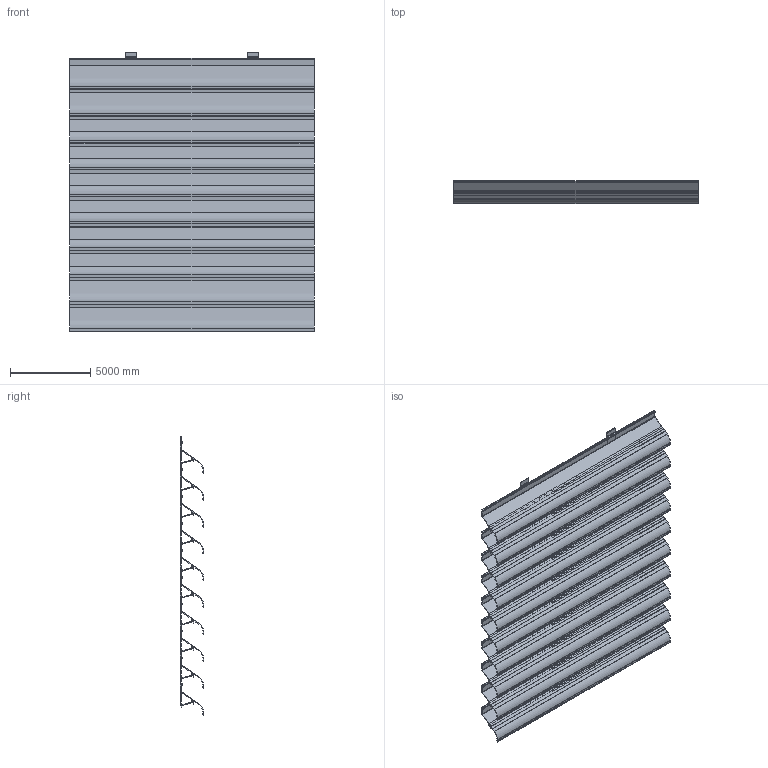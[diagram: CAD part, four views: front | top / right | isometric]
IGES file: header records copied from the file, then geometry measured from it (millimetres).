
Global section: file name: 3D_L_066S; native system: AutoCAD 2023 - English; preprocessor: Autodesk Translation Framework DWG producer (atf_dwg_producer); organization: unknown; date: 20260202.111940; units: inch
Bounding box: 15240 x 1447.8 x 17365.66 mm (x, y, z)
Volume: 17500807553.6 mm3; surface area: 996336342.2 mm2
Topology: 10 solids, 10 shells, 1330 faces, 6650 edges, 6180 vertices
Faces by surface type: bspline 1110, revolution 220
